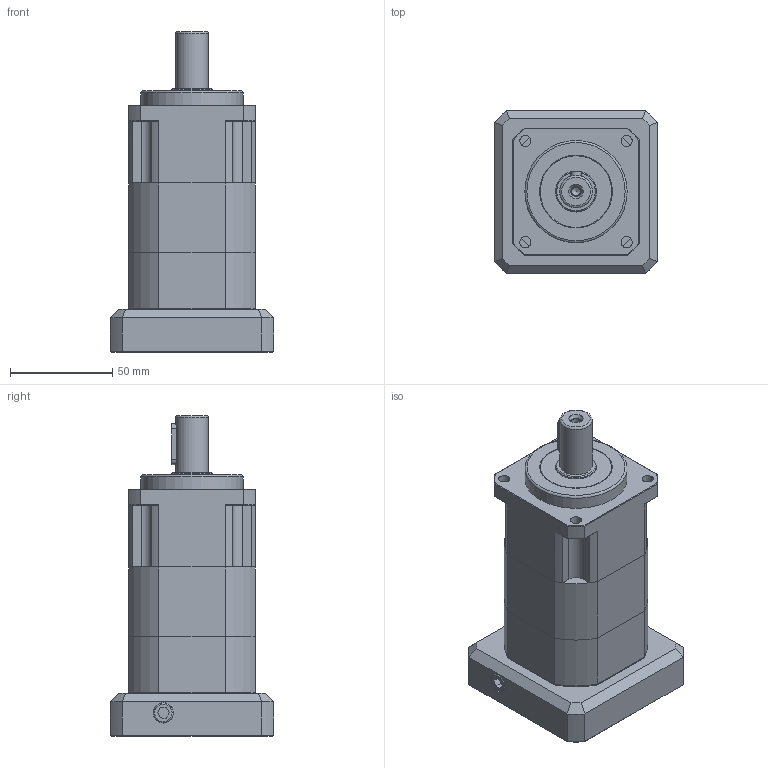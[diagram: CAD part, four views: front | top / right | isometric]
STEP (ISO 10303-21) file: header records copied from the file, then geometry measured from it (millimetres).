
FILE_DESCRIPTION((''),'2;1');
FILE_NAME('C:\Work\감속기 카다로그 도면\ATG Reducer(홈페이지)\KSB\추가수정\KSB-62A-2 (S19).stp','2014-06-24T10:56:34',('young'),(''),'Autodesk Inventor 2012','Autodesk Inventor 2012','');
FILE_SCHEMA(('AUTOMOTIVE_DESIGN { 1 0 10303 214 1 1 1 1 }'));
Length unit declared in the file: millimetre
Products named in the file (3): KSB-62A-2 (S19); 62-2-body; 62-S19
Assembly tree (2 placements, depth 2):
  KSB-62A-2 (S19)
    62-2-body
    62-S19
Bounding box: 80 x 80 x 156.8 mm (x, y, z)
Volume: 341156 mm3; surface area: 98101.1 mm2
Topology: 17 solids, 17 shells, 476 faces, 1141 edges, 726 vertices
Faces by surface type: plane 266, cylinder 116, cone 71, torus 12, bspline 11
Full cylindrical faces by diameter (mm): 3.3 x4, 4 x1, 4.2 x6, 4.5 x8, 5 x9, 5.5 x9, 7 x1, 8 x4, 8.5 x4, 9.5 x2, 16 x1, 17 x1, 19.2 x1, 19.8 x1, 20 x2, 23.5 x1, 24.8 x1, 26 x1, 35 x4, 44 x1, 48 x1, 50 x3, 70 x1
Entity records: 14235 total; most frequent: CARTESIAN_POINT 3526, DIRECTION 2201, ORIENTED_EDGE 1988, EDGE_CURVE 994, AXIS2_PLACEMENT_3D 827, VERTEX_POINT 695, EDGE_LOOP 669, VECTOR 547
